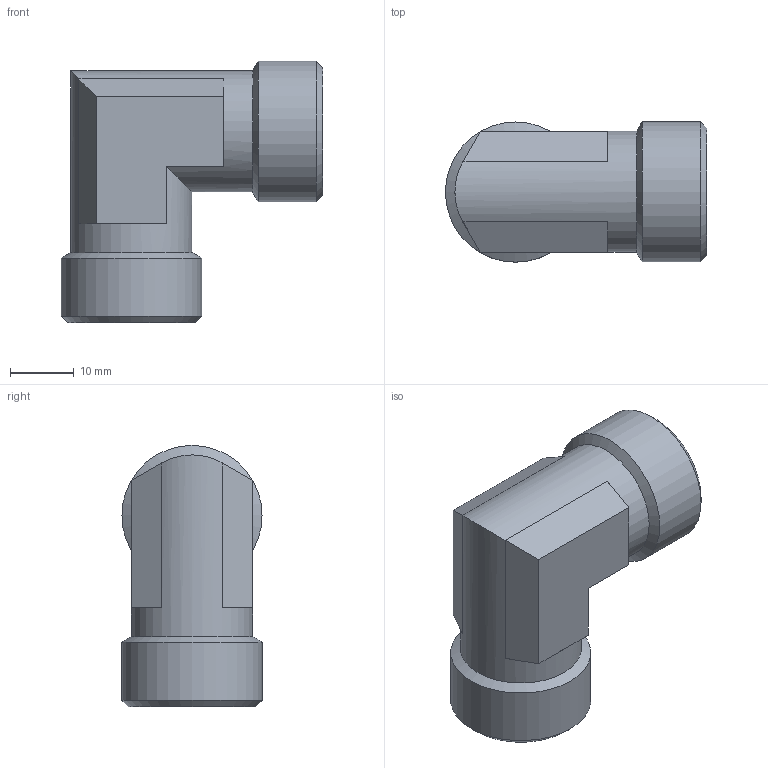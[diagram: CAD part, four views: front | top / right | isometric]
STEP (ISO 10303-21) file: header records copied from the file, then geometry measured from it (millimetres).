
FILE_DESCRIPTION( ( 'Unknown' ), '1' );
FILE_NAME( 'C:/Users/p.nanko/Desktop/3D SR/XW14S.stp', 'Unknown', ( 'Peter Nanko' ), ( 'Armaturen Arndt' ), 'PSStep 14.0', 'Solid Edge ST4', ' ' );
FILE_SCHEMA( ( 'AUTOMOTIVE_DESIGN { 1 0 10303 214 1 1 1 1 }' ) );
Length unit declared in the file: millimetre
Products named in the file (1): 1
Bounding box: 41 x 22 x 41 mm (x, y, z)
Volume: 13165.6 mm3; surface area: 6680.2 mm2
Topology: 1 solids, 1 shells, 42 faces, 90 edges, 52 vertices
Faces by surface type: plane 24, cylinder 12, cone 6
Full cylindrical faces by diameter (mm): 10 x2, 14 x2, 19 x2, 22 x2
Entity records: 1378 total; most frequent: DIRECTION 196, CARTESIAN_POINT 165, ORIENTED_EDGE 146, AXIS2_PLACEMENT_3D 80, EDGE_CURVE 73, EDGE_LOOP 60, FACE_OUTER_BOUND 50, VERTEX_POINT 49
